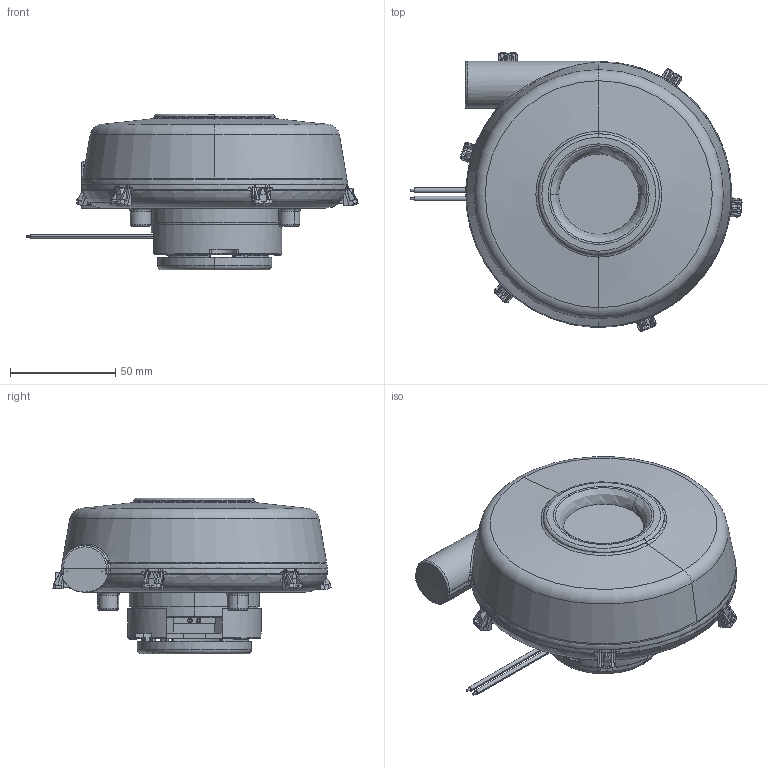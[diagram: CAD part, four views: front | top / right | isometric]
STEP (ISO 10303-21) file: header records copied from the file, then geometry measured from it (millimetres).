
FILE_DESCRIPTION((''),'2;1');
FILE_NAME('12060','2026-09-29T10:45:02',('pc'),(''),'CREO PARAMETRIC BY PTC INC, 2018050','CREO PARAMETRIC BY PTC INC, 2018050','');
FILE_SCHEMA(('CONFIG_CONTROL_DESIGN','GEOMETRIC_VALIDATION_PROPERTIES_MIM'));
Length unit declared in the file: millimetre
Products named in the file (1): 12060
Bounding box: 157.83 x 132.25 x 74 mm (x, y, z)
Volume: 547814.3 mm3; surface area: 69510.1 mm2
Topology: 1 solids, 17 shells, 1203 faces, 3313 edges, 2117 vertices
Faces by surface type: plane 550, cylinder 247, bspline 124, torus 120, cone 118, extrusion 30, sphere 12, revolution 2
Entity records: 48912 total; most frequent: CARTESIAN_POINT 19827, ORIENTED_EDGE 6602, DIRECTION 5416, EDGE_CURVE 3301, VERTEX_POINT 2117, AXIS2_PLACEMENT_3D 2112, EDGE_LOOP 1226, FACE_OUTER_BOUND 1203
